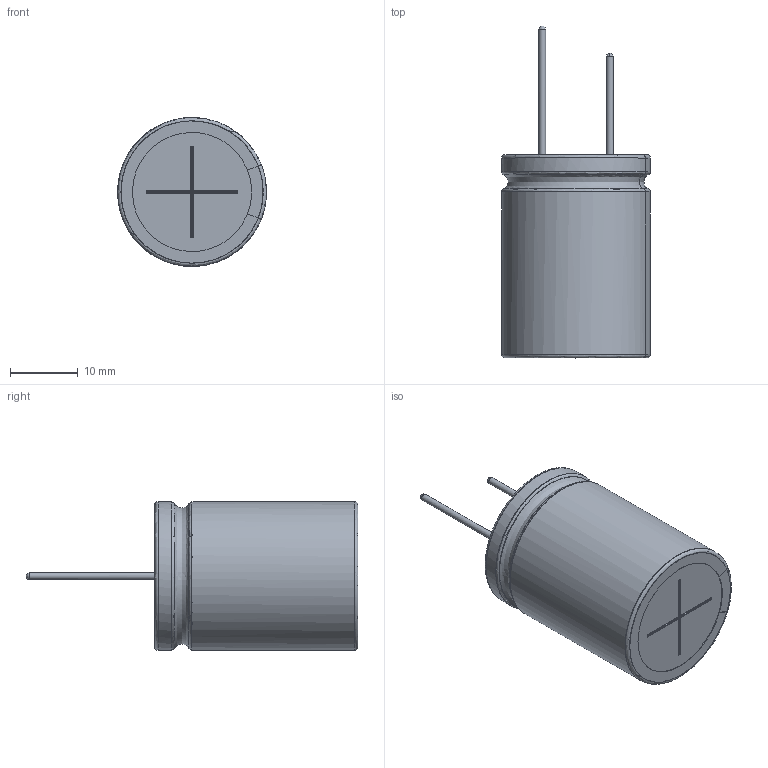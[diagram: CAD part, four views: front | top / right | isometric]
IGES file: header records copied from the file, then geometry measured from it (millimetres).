
Start section: JAMA-IS VERSION  1.0
Bounding box: 21.96 x 49 x 21.98 mm (x, y, z)
Surface area: 7634.4 mm2 (no closed solid volume)
Topology: 0 solids, 0 shells, 100 faces, 1352 edges, 1332 vertices
Faces by surface type: bspline 100
